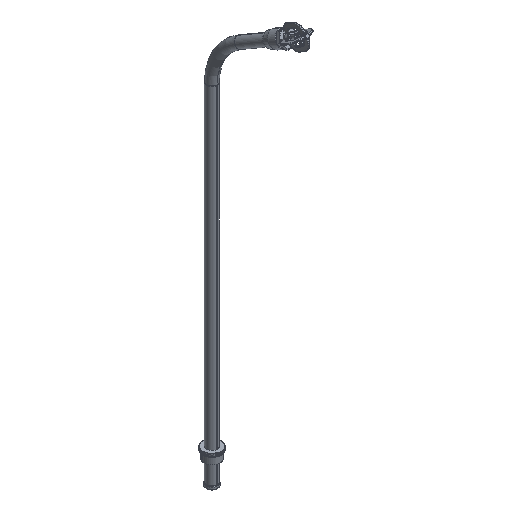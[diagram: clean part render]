
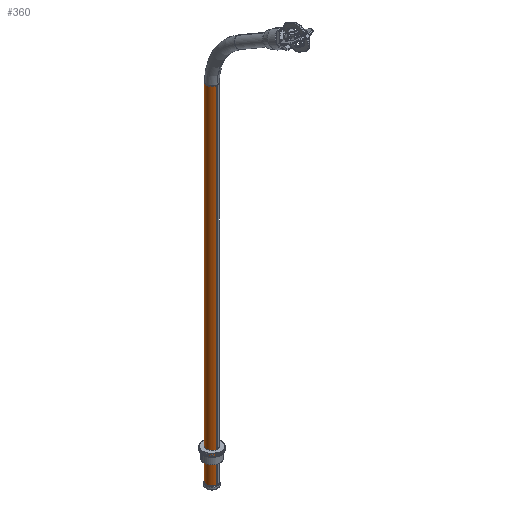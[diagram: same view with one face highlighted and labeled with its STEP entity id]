
A CAD part, isometric view. The second image highlights one B-rep face of the part: STEP entity #360.
In plain terms, the highlighted cylindrical face has radius 14.287 mm (diameter 28.575 mm), a partial arc.
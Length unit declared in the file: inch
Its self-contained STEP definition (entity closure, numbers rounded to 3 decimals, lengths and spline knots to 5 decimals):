
#6=DIRECTION('',(0.,0.,1.));
#7=VECTOR('',#6,36.908);
#8=CARTESIAN_POINT('',(0.,5.4375,-36.908));
#9=LINE('',#8,#7);
#28=CARTESIAN_POINT('',(0.,6.,-36.908));
#29=DIRECTION('',(0.,0.,-1.));
#30=DIRECTION('',(0.,-1.,0.));
#31=AXIS2_PLACEMENT_3D('',#28,#29,#30);
#33=DIRECTION('',(0.,0.,1.));
#34=VECTOR('',#33,36.908);
#35=CARTESIAN_POINT('',(0.,6.5625,-36.908));
#36=LINE('',#35,#34);
#47=CARTESIAN_POINT('',(0.,6.,0.));
#48=DIRECTION('',(0.,0.,1.));
#49=DIRECTION('',(0.,1.,0.));
#50=AXIS2_PLACEMENT_3D('',#47,#48,#49);
#243=CARTESIAN_POINT('',(0.,5.4375,0.));
#244=CARTESIAN_POINT('',(0.,6.5625,0.));
#245=VERTEX_POINT('',#243);
#246=VERTEX_POINT('',#244);
#287=CARTESIAN_POINT('',(0.,6.5625,-36.908));
#288=CARTESIAN_POINT('',(0.,5.4375,-36.908));
#289=VERTEX_POINT('',#287);
#290=VERTEX_POINT('',#288);
#348=CARTESIAN_POINT('',(0.,6.,-36.908));
#349=DIRECTION('',(0.,0.,1.));
#350=DIRECTION('',(0.,-1.,0.));
#351=AXIS2_PLACEMENT_3D('',#348,#349,#350);
#352=CYLINDRICAL_SURFACE('',#351,0.5625);
#353=ORIENTED_EDGE('',*,*,#339,.T.);
#354=ORIENTED_EDGE('',*,*,#314,.T.);
#356=ORIENTED_EDGE('',*,*,#355,.T.);
#357=ORIENTED_EDGE('',*,*,#310,.F.);
#358=EDGE_LOOP('',(#353,#354,#356,#357));
#359=FACE_OUTER_BOUND('',#358,.F.);
#360=ADVANCED_FACE('',(#359),#352,.T.);
#32=CIRCLE('',#31,0.5625);
#51=CIRCLE('',#50,0.5625);
#310=EDGE_CURVE('',#290,#245,#9,.T.);
#314=EDGE_CURVE('',#289,#246,#36,.T.);
#339=EDGE_CURVE('',#290,#289,#32,.T.);
#355=EDGE_CURVE('',#246,#245,#51,.T.);
